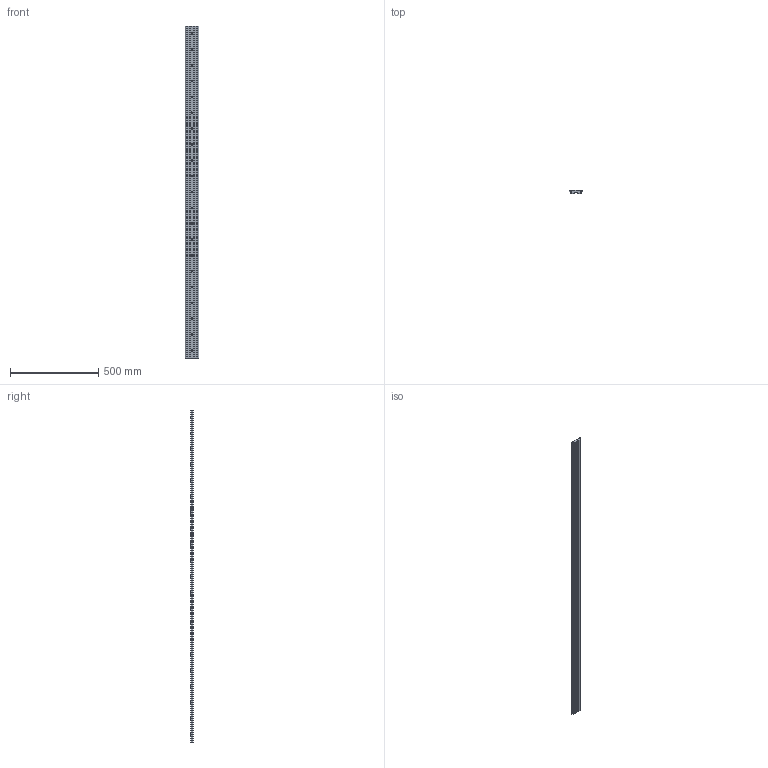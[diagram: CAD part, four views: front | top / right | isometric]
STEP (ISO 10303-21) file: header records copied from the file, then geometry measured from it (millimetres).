
FILE_DESCRIPTION(('STEP AP203'),'1');
FILE_NAME('slide_nm76l1886p2.stp','2022-07-01T04:43:31',('TraceParts'),('TraceParts S.A.'),'Spatial InterOp 3D',' ',' ');
FILE_SCHEMA(('CONFIG_CONTROL_DESIGN'));
Length unit declared in the file: millimetre
Products named in the file (1): 1
Bounding box: 75.61 x 15.91 x 1886 mm (x, y, z)
Volume: 1654080.7 mm3; surface area: 362318.3 mm2
Topology: 1 solids, 1 shells, 145 faces, 366 edges, 244 vertices
Faces by surface type: cylinder 98, plane 47
Entity records: 4584 total; most frequent: DIRECTION 854, CARTESIAN_POINT 756, ORIENTED_EDGE 732, EDGE_CURVE 366, AXIS2_PLACEMENT_3D 342, VERTEX_POINT 244, EDGE_LOOP 208, CIRCLE 196
